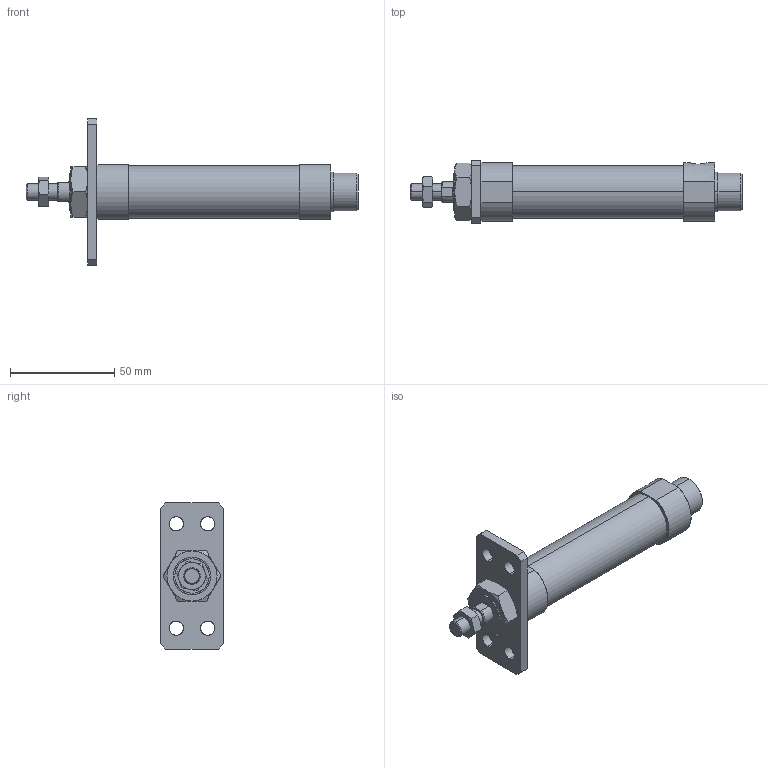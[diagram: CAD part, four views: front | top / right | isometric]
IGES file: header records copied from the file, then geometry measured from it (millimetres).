
Start section: SolidWorks IGES file using analytic representation for surfaces
Global section: file name: C:\Users\Toshiba\Desktop\J#1-20-15(25)-A.IGS; native system: SolidWorks 2014; preprocessor: SolidWorks 2014; author: Toshiba; date: 160308.143846; units: millimetre
Bounding box: 159 x 30 x 70 mm (x, y, z)
Surface area: 19853.5 mm2 (no closed solid volume)
Topology: 0 solids, 0 shells, 109 faces, 1922 edges, 1922 vertices
Faces by surface type: bspline 69, revolution 40
